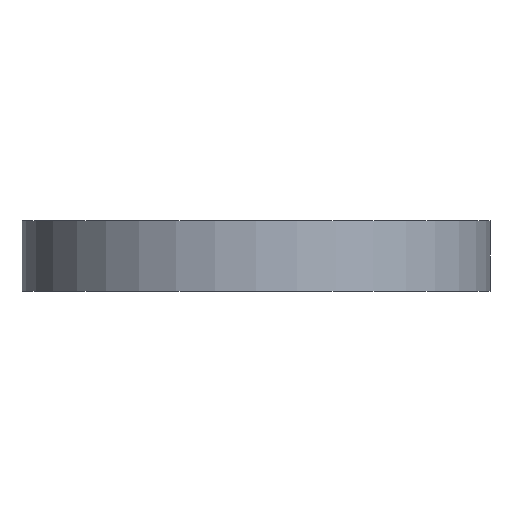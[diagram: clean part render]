
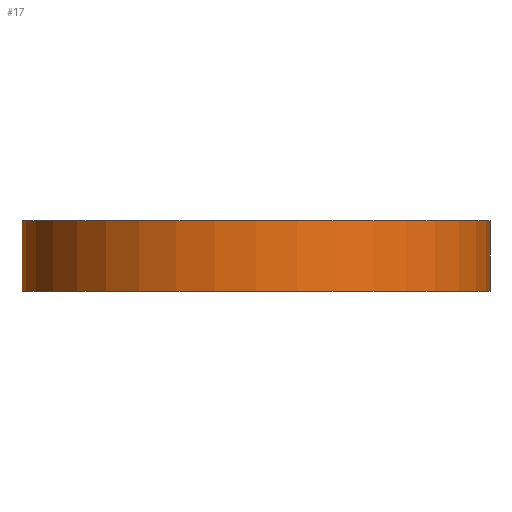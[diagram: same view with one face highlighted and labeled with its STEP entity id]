
A CAD part, front view. The second image highlights one B-rep face of the part: STEP entity #17.
In plain terms, the highlighted cylindrical face has radius 10 mm (diameter 20 mm), a full revolution.
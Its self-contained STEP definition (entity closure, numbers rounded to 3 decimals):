
#17 = ADVANCED_FACE('',(#18),#31,.T.);
#18 = FACE_BOUND('',#19,.T.);
#19 = EDGE_LOOP('',(#20,#54,#77,#104));
#20 = ORIENTED_EDGE('',*,*,#21,.F.);
#21 = EDGE_CURVE('',#22,#22,#24,.T.);
#22 = VERTEX_POINT('',#23);
#23 = CARTESIAN_POINT('',(10.,0.,-15.4));
#24 = SURFACE_CURVE('',#25,(#30,#42),.PCURVE_S1.);
#25 = CIRCLE('',#26,10.);
#26 = AXIS2_PLACEMENT_3D('',#27,#28,#29);
#27 = CARTESIAN_POINT('',(0.,0.,-15.4));
#28 = DIRECTION('',(0.,0.,1.));
#29 = DIRECTION('',(1.,0.,-0.));
#30 = PCURVE('',#31,#36);
#31 = CYLINDRICAL_SURFACE('',#32,10.);
#32 = AXIS2_PLACEMENT_3D('',#33,#34,#35);
#33 = CARTESIAN_POINT('',(0.,0.,-18.4));
#34 = DIRECTION('',(0.,0.,1.));
#35 = DIRECTION('',(1.,0.,-0.));
#36 = DEFINITIONAL_REPRESENTATION('',(#37),#41);
#37 = LINE('',#38,#39);
#38 = CARTESIAN_POINT('',(0.,3.));
#39 = VECTOR('',#40,1.);
#40 = DIRECTION('',(1.,0.));
#41 = ( GEOMETRIC_REPRESENTATION_CONTEXT(2) 
PARAMETRIC_REPRESENTATION_CONTEXT() REPRESENTATION_CONTEXT('2D SPACE',''
  ) );
#42 = PCURVE('',#43,#48);
#43 = PLANE('',#44);
#44 = AXIS2_PLACEMENT_3D('',#45,#46,#47);
#45 = CARTESIAN_POINT('',(0.,0.,-15.4));
#46 = DIRECTION('',(0.,0.,1.));
#47 = DIRECTION('',(1.,0.,-0.));
#48 = DEFINITIONAL_REPRESENTATION('',(#49),#53);
#49 = CIRCLE('',#50,10.);
#50 = AXIS2_PLACEMENT_2D('',#51,#52);
#51 = CARTESIAN_POINT('',(0.,0.));
#52 = DIRECTION('',(1.,0.));
#53 = ( GEOMETRIC_REPRESENTATION_CONTEXT(2) 
PARAMETRIC_REPRESENTATION_CONTEXT() REPRESENTATION_CONTEXT('2D SPACE',''
  ) );
#54 = ORIENTED_EDGE('',*,*,#55,.F.);
#55 = EDGE_CURVE('',#56,#22,#58,.T.);
#56 = VERTEX_POINT('',#57);
#57 = CARTESIAN_POINT('',(10.,0.,-18.4));
#58 = SEAM_CURVE('',#59,(#63,#70),.PCURVE_S1.);
#59 = LINE('',#60,#61);
#60 = CARTESIAN_POINT('',(10.,0.,-18.4));
#61 = VECTOR('',#62,1.);
#62 = DIRECTION('',(0.,0.,1.));
#63 = PCURVE('',#31,#64);
#64 = DEFINITIONAL_REPRESENTATION('',(#65),#69);
#65 = LINE('',#66,#67);
#66 = CARTESIAN_POINT('',(6.283,-0.));
#67 = VECTOR('',#68,1.);
#68 = DIRECTION('',(0.,1.));
#69 = ( GEOMETRIC_REPRESENTATION_CONTEXT(2) 
PARAMETRIC_REPRESENTATION_CONTEXT() REPRESENTATION_CONTEXT('2D SPACE',''
  ) );
#70 = PCURVE('',#31,#71);
#71 = DEFINITIONAL_REPRESENTATION('',(#72),#76);
#72 = LINE('',#73,#74);
#73 = CARTESIAN_POINT('',(0.,-0.));
#74 = VECTOR('',#75,1.);
#75 = DIRECTION('',(0.,1.));
#76 = ( GEOMETRIC_REPRESENTATION_CONTEXT(2) 
PARAMETRIC_REPRESENTATION_CONTEXT() REPRESENTATION_CONTEXT('2D SPACE',''
  ) );
#77 = ORIENTED_EDGE('',*,*,#78,.T.);
#78 = EDGE_CURVE('',#56,#56,#79,.T.);
#79 = SURFACE_CURVE('',#80,(#85,#92),.PCURVE_S1.);
#80 = CIRCLE('',#81,10.);
#81 = AXIS2_PLACEMENT_3D('',#82,#83,#84);
#82 = CARTESIAN_POINT('',(0.,0.,-18.4));
#83 = DIRECTION('',(0.,0.,1.));
#84 = DIRECTION('',(1.,0.,-0.));
#85 = PCURVE('',#31,#86);
#86 = DEFINITIONAL_REPRESENTATION('',(#87),#91);
#87 = LINE('',#88,#89);
#88 = CARTESIAN_POINT('',(0.,0.));
#89 = VECTOR('',#90,1.);
#90 = DIRECTION('',(1.,0.));
#91 = ( GEOMETRIC_REPRESENTATION_CONTEXT(2) 
PARAMETRIC_REPRESENTATION_CONTEXT() REPRESENTATION_CONTEXT('2D SPACE',''
  ) );
#92 = PCURVE('',#93,#98);
#93 = PLANE('',#94);
#94 = AXIS2_PLACEMENT_3D('',#95,#96,#97);
#95 = CARTESIAN_POINT('',(0.,0.,-18.4));
#96 = DIRECTION('',(0.,0.,1.));
#97 = DIRECTION('',(1.,0.,-0.));
#98 = DEFINITIONAL_REPRESENTATION('',(#99),#103);
#99 = CIRCLE('',#100,10.);
#100 = AXIS2_PLACEMENT_2D('',#101,#102);
#101 = CARTESIAN_POINT('',(0.,0.));
#102 = DIRECTION('',(1.,0.));
#103 = ( GEOMETRIC_REPRESENTATION_CONTEXT(2) 
PARAMETRIC_REPRESENTATION_CONTEXT() REPRESENTATION_CONTEXT('2D SPACE',''
  ) );
#104 = ORIENTED_EDGE('',*,*,#55,.T.);
